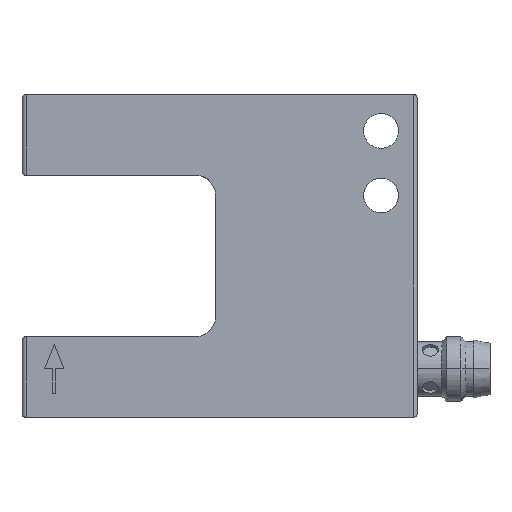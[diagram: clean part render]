
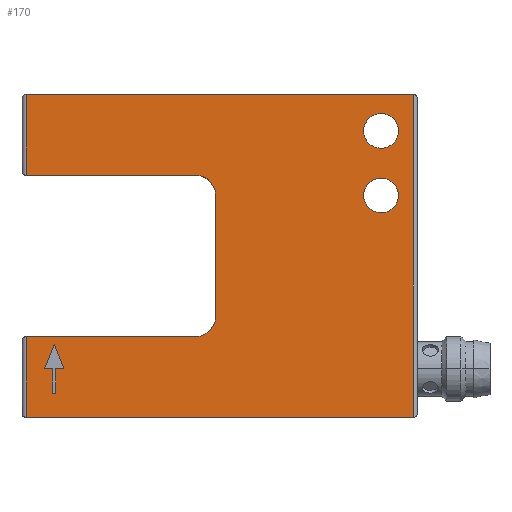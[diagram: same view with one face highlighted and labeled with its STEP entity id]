
A CAD part, top view. The second image highlights one B-rep face of the part: STEP entity #170.
In plain terms, the highlighted planar face has unit normal (0, 0, 1).
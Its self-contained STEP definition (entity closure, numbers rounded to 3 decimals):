
#170 = ADVANCED_FACE( '', ( #380, #381, #382, #383 ), #384, .T. );
#380 = FACE_OUTER_BOUND( '', #593, .T. );
#381 = FACE_BOUND( '', #594, .T. );
#382 = FACE_BOUND( '', #595, .T. );
#383 = FACE_BOUND( '', #596, .T. );
#384 = PLANE( '', #597 );
#593 = EDGE_LOOP( '', ( #1288, #1289, #1290, #1291, #1292, #1293, #1294, #1295, #1296, #1297 ) );
#594 = EDGE_LOOP( '', ( #1298, #1299, #1300, #1301, #1302, #1303, #1304 ) );
#595 = EDGE_LOOP( '', ( #1305, #1306 ) );
#596 = EDGE_LOOP( '', ( #1307, #1308 ) );
#597 = AXIS2_PLACEMENT_3D( '', #1309, #1310, #1311 );
#1288 = ORIENTED_EDGE( '', *, *, #1406, .F. );
#1289 = ORIENTED_EDGE( '', *, *, #1517, .T. );
#1290 = ORIENTED_EDGE( '', *, *, #1400, .T. );
#1291 = ORIENTED_EDGE( '', *, *, #1523, .T. );
#1292 = ORIENTED_EDGE( '', *, *, #1404, .F. );
#1293 = ORIENTED_EDGE( '', *, *, #1502, .T. );
#1294 = ORIENTED_EDGE( '', *, *, #1505, .T. );
#1295 = ORIENTED_EDGE( '', *, *, #1508, .T. );
#1296 = ORIENTED_EDGE( '', *, *, #1511, .T. );
#1297 = ORIENTED_EDGE( '', *, *, #1513, .T. );
#1298 = ORIENTED_EDGE( '', *, *, #1422, .T. );
#1299 = ORIENTED_EDGE( '', *, *, #1440, .T. );
#1300 = ORIENTED_EDGE( '', *, *, #1437, .T. );
#1301 = ORIENTED_EDGE( '', *, *, #1434, .T. );
#1302 = ORIENTED_EDGE( '', *, *, #1431, .T. );
#1303 = ORIENTED_EDGE( '', *, *, #1428, .T. );
#1304 = ORIENTED_EDGE( '', *, *, #1425, .T. );
#1305 = ORIENTED_EDGE( '', *, *, #1313, .F. );
#1306 = ORIENTED_EDGE( '', *, *, #1496, .F. );
#1307 = ORIENTED_EDGE( '', *, *, #1317, .F. );
#1308 = ORIENTED_EDGE( '', *, *, #1494, .F. );
#1309 = CARTESIAN_POINT( '', ( 0., 0., 5. ) );
#1310 = DIRECTION( '', ( 0., 0., 1. ) );
#1311 = DIRECTION( '', ( 1., 0., 0. ) );
#1313 = EDGE_CURVE( '', #1525, #1528, #1529, .T. );
#1317 = EDGE_CURVE( '', #1533, #1536, #1537, .T. );
#1400 = EDGE_CURVE( '', #1685, #1689, #1691, .T. );
#1404 = EDGE_CURVE( '', #1697, #1693, #1699, .T. );
#1406 = EDGE_CURVE( '', #1700, #1703, #1704, .T. );
#1422 = EDGE_CURVE( '', #1731, #1729, #1732, .T. );
#1425 = EDGE_CURVE( '', #1736, #1731, #1737, .T. );
#1428 = EDGE_CURVE( '', #1741, #1736, #1742, .T. );
#1431 = EDGE_CURVE( '', #1746, #1741, #1747, .T. );
#1434 = EDGE_CURVE( '', #1751, #1746, #1752, .T. );
#1437 = EDGE_CURVE( '', #1756, #1751, #1757, .T. );
#1440 = EDGE_CURVE( '', #1729, #1756, #1760, .T. );
#1494 = EDGE_CURVE( '', #1536, #1533, #1830, .T. );
#1496 = EDGE_CURVE( '', #1528, #1525, #1832, .T. );
#1502 = EDGE_CURVE( '', #1697, #1840, #1842, .T. );
#1505 = EDGE_CURVE( '', #1840, #1845, #1847, .T. );
#1508 = EDGE_CURVE( '', #1845, #1850, #1852, .T. );
#1511 = EDGE_CURVE( '', #1850, #1855, #1857, .T. );
#1513 = EDGE_CURVE( '', #1855, #1703, #1859, .T. );
#1517 = EDGE_CURVE( '', #1700, #1685, #1864, .T. );
#1523 = EDGE_CURVE( '', #1689, #1693, #1872, .T. );
#1525 = VERTEX_POINT( '', #1874 );
#1528 = VERTEX_POINT( '', #1878 );
#1529 = CIRCLE( '', #1879, 2.15 );
#1533 = VERTEX_POINT( '', #1884 );
#1536 = VERTEX_POINT( '', #1888 );
#1537 = CIRCLE( '', #1889, 2.15 );
#1685 = VERTEX_POINT( '', #2178 );
#1689 = VERTEX_POINT( '', #2183 );
#1691 = LINE( '', #2185, #2186 );
#1693 = VERTEX_POINT( '', #2188 );
#1697 = VERTEX_POINT( '', #2193 );
#1699 = LINE( '', #2195, #2196 );
#1700 = VERTEX_POINT( '', #2197 );
#1703 = VERTEX_POINT( '', #2200 );
#1704 = LINE( '', #2201, #2202 );
#1729 = VERTEX_POINT( '', #2237 );
#1731 = VERTEX_POINT( '', #2240 );
#1732 = LINE( '', #2241, #2242 );
#1736 = VERTEX_POINT( '', #2248 );
#1737 = LINE( '', #2249, #2250 );
#1741 = VERTEX_POINT( '', #2256 );
#1742 = LINE( '', #2257, #2258 );
#1746 = VERTEX_POINT( '', #2264 );
#1747 = LINE( '', #2265, #2266 );
#1751 = VERTEX_POINT( '', #2272 );
#1752 = LINE( '', #2273, #2274 );
#1756 = VERTEX_POINT( '', #2280 );
#1757 = LINE( '', #2281, #2282 );
#1760 = LINE( '', #2287, #2288 );
#1830 = CIRCLE( '', #2410, 2.15 );
#1832 = CIRCLE( '', #2412, 2.15 );
#1840 = VERTEX_POINT( '', #2423 );
#1842 = LINE( '', #2426, #2427 );
#1845 = VERTEX_POINT( '', #2430 );
#1847 = CIRCLE( '', #2433, 2.5 );
#1850 = VERTEX_POINT( '', #2437 );
#1852 = LINE( '', #2440, #2441 );
#1855 = VERTEX_POINT( '', #2444 );
#1857 = CIRCLE( '', #2447, 2.5 );
#1859 = LINE( '', #2450, #2451 );
#1864 = LINE( '', #2458, #2459 );
#1872 = LINE( '', #2471, #2472 );
#1874 = CARTESIAN_POINT( '', ( 46.65, 29.5, 5. ) );
#1878 = CARTESIAN_POINT( '', ( 42.35, 29.5, 5. ) );
#1879 = AXIS2_PLACEMENT_3D( '', #2476, #2477, #2478 );
#1884 = CARTESIAN_POINT( '', ( 46.65, 21.5, 5. ) );
#1888 = CARTESIAN_POINT( '', ( 42.35, 21.5, 5. ) );
#1889 = AXIS2_PLACEMENT_3D( '', #2484, #2485, #2486 );
#2178 = CARTESIAN_POINT( '', ( 48.5, -6., 5. ) );
#2183 = CARTESIAN_POINT( '', ( 48.5, 34., 5. ) );
#2185 = CARTESIAN_POINT( '', ( 48.5, 14., 5. ) );
#2186 = VECTOR( '', #2639, 1. );
#2188 = CARTESIAN_POINT( '', ( 0.5, 34., 5. ) );
#2193 = CARTESIAN_POINT( '', ( 0.5, 24., 5. ) );
#2195 = CARTESIAN_POINT( '', ( 0.5, 14., 5. ) );
#2196 = VECTOR( '', #2647, 1. );
#2197 = CARTESIAN_POINT( '', ( 0.5, -6., 5. ) );
#2200 = CARTESIAN_POINT( '', ( 0.5, 4., 5. ) );
#2201 = CARTESIAN_POINT( '', ( 0.5, 14., 5. ) );
#2202 = VECTOR( '', #2651, 1. );
#2237 = CARTESIAN_POINT( '', ( 3.8, 0., 5. ) );
#2240 = CARTESIAN_POINT( '', ( 3.8, -3., 5. ) );
#2241 = CARTESIAN_POINT( '', ( 3.8, 0., 5. ) );
#2242 = VECTOR( '', #2675, 1. );
#2248 = CARTESIAN_POINT( '', ( 4.2, -3., 5. ) );
#2249 = CARTESIAN_POINT( '', ( 1.9, -3., 5. ) );
#2250 = VECTOR( '', #2678, 1. );
#2256 = CARTESIAN_POINT( '', ( 4.2, 0., 5. ) );
#2257 = CARTESIAN_POINT( '', ( 4.2, -1.5, 5. ) );
#2258 = VECTOR( '', #2681, 1. );
#2264 = CARTESIAN_POINT( '', ( 5.2, 0., 5. ) );
#2265 = CARTESIAN_POINT( '', ( 2.1, 0., 5. ) );
#2266 = VECTOR( '', #2684, 1. );
#2272 = CARTESIAN_POINT( '', ( 4., 3., 5. ) );
#2273 = CARTESIAN_POINT( '', ( 4.841, 0.897, 5. ) );
#2274 = VECTOR( '', #2687, 1. );
#2280 = CARTESIAN_POINT( '', ( 2.8, 0., 5. ) );
#2281 = CARTESIAN_POINT( '', ( 3.207, 1.017, 5. ) );
#2282 = VECTOR( '', #2690, 1. );
#2287 = CARTESIAN_POINT( '', ( 1.4, 0., 5. ) );
#2288 = VECTOR( '', #2693, 1. );
#2410 = AXIS2_PLACEMENT_3D( '', #2815, #2816, #2817 );
#2412 = AXIS2_PLACEMENT_3D( '', #2821, #2822, #2823 );
#2423 = CARTESIAN_POINT( '', ( 21.5, 24., 5. ) );
#2426 = CARTESIAN_POINT( '', ( 0.5, 24., 5. ) );
#2427 = VECTOR( '', #2831, 1. );
#2430 = CARTESIAN_POINT( '', ( 24., 21.5, 5. ) );
#2433 = AXIS2_PLACEMENT_3D( '', #2836, #2837, #2838 );
#2437 = CARTESIAN_POINT( '', ( 24., 6.5, 5. ) );
#2440 = CARTESIAN_POINT( '', ( 24., 21.5, 5. ) );
#2441 = VECTOR( '', #2841, 1. );
#2444 = CARTESIAN_POINT( '', ( 21.5, 4., 5. ) );
#2447 = AXIS2_PLACEMENT_3D( '', #2846, #2847, #2848 );
#2450 = CARTESIAN_POINT( '', ( 21.5, 4., 5. ) );
#2451 = VECTOR( '', #2850, 1. );
#2458 = CARTESIAN_POINT( '', ( 0.5, -6., 5. ) );
#2459 = VECTOR( '', #2856, 1. );
#2471 = CARTESIAN_POINT( '', ( 48.5, 34., 5. ) );
#2472 = VECTOR( '', #2864, 1. );
#2476 = CARTESIAN_POINT( '', ( 44.5, 29.5, 5. ) );
#2477 = DIRECTION( '', ( 0., 0., 1. ) );
#2478 = DIRECTION( '', ( 1., 0., 0. ) );
#2484 = CARTESIAN_POINT( '', ( 44.5, 21.5, 5. ) );
#2485 = DIRECTION( '', ( 0., 0., 1. ) );
#2486 = DIRECTION( '', ( 1., 0., 0. ) );
#2639 = DIRECTION( '', ( 0., 1., 0. ) );
#2647 = DIRECTION( '', ( 0., 1., 0. ) );
#2651 = DIRECTION( '', ( 0., 1., 0. ) );
#2675 = DIRECTION( '', ( 0., 1., 0. ) );
#2678 = DIRECTION( '', ( -1., 0., 0. ) );
#2681 = DIRECTION( '', ( 0., -1., 0. ) );
#2684 = DIRECTION( '', ( -1., 0., 0. ) );
#2687 = DIRECTION( '', ( 0.371, -0.928, 0. ) );
#2690 = DIRECTION( '', ( 0.371, 0.928, 0. ) );
#2693 = DIRECTION( '', ( -1., 0., 0. ) );
#2815 = CARTESIAN_POINT( '', ( 44.5, 21.5, 5. ) );
#2816 = DIRECTION( '', ( 0., 0., 1. ) );
#2817 = DIRECTION( '', ( 1., 0., 0. ) );
#2821 = CARTESIAN_POINT( '', ( 44.5, 29.5, 5. ) );
#2822 = DIRECTION( '', ( 0., 0., 1. ) );
#2823 = DIRECTION( '', ( 1., 0., 0. ) );
#2831 = DIRECTION( '', ( 1., 0., 0. ) );
#2836 = CARTESIAN_POINT( '', ( 21.5, 21.5, 5. ) );
#2837 = DIRECTION( '', ( 0., 0., -1. ) );
#2838 = DIRECTION( '', ( 0., 1., 0. ) );
#2841 = DIRECTION( '', ( 0., -1., 0. ) );
#2846 = CARTESIAN_POINT( '', ( 21.5, 6.5, 5. ) );
#2847 = DIRECTION( '', ( 0., 0., -1. ) );
#2848 = DIRECTION( '', ( 1., 0., 0. ) );
#2850 = DIRECTION( '', ( -1., 0., 0. ) );
#2856 = DIRECTION( '', ( 1., 0., 0. ) );
#2864 = DIRECTION( '', ( -1., 0., 0. ) );
